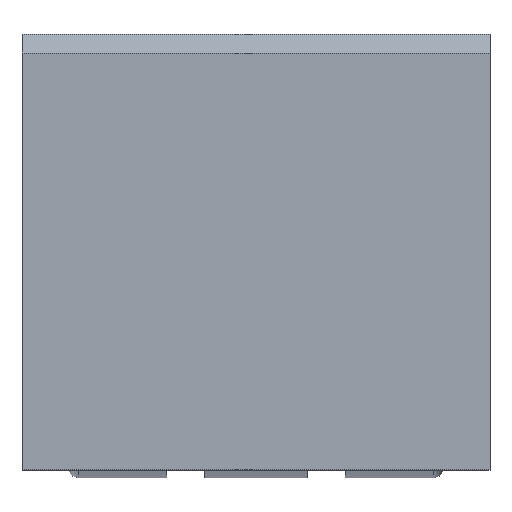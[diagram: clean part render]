
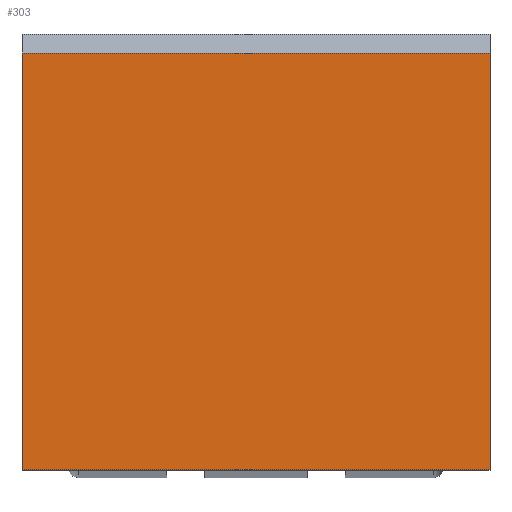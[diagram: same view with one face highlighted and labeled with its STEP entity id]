
A CAD part, top view. The second image highlights one B-rep face of the part: STEP entity #303.
In plain terms, the highlighted planar face has unit normal (0, 0, 1).
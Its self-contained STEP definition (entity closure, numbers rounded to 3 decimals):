
#303 = ADVANCED_FACE ( 'NONE', ( #7132 ), #13561, .F. ) ;
#1053 = EDGE_CURVE ( 'NONE', #1647, #5340, #2140, .T. ) ;
#1131 = CARTESIAN_POINT ( 'NONE',  ( 50., 89., 45. ) ) ;
#1193 = ORIENTED_EDGE ( 'NONE', *, *, #10344, .T. ) ;
#1313 = DIRECTION ( 'NONE',  ( 0., 0., -1. ) ) ;
#1647 = VERTEX_POINT ( 'NONE', #14629 ) ;
#1762 = DIRECTION ( 'NONE',  ( 0., -1., 0. ) ) ;
#2132 = VECTOR ( 'NONE', #15013, 1000. ) ;
#2140 = LINE ( 'NONE', #3399, #12833 ) ;
#3399 = CARTESIAN_POINT ( 'NONE',  ( 50., 0., 45. ) ) ;
#4885 = ORIENTED_EDGE ( 'NONE', *, *, #5433, .T. ) ;
#5340 = VERTEX_POINT ( 'NONE', #8108 ) ;
#5433 = EDGE_CURVE ( 'NONE', #17380, #5340, #12501, .T. ) ;
#6242 = DIRECTION ( 'NONE',  ( -1., 0., 0. ) ) ;
#6957 = AXIS2_PLACEMENT_3D ( 'NONE', #8106, #1313, #11167 ) ;
#7132 = FACE_OUTER_BOUND ( 'NONE', #8849, .T. ) ;
#7371 = ORIENTED_EDGE ( 'NONE', *, *, #15152, .F. ) ;
#7718 = VECTOR ( 'NONE', #1762, 1000. ) ;
#8106 = CARTESIAN_POINT ( 'NONE',  ( 50., 0., 45. ) ) ;
#8108 = CARTESIAN_POINT ( 'NONE',  ( -50., 0., 45. ) ) ;
#8849 = EDGE_LOOP ( 'NONE', ( #7371, #1193, #4885, #15198 ) ) ;
#10237 = LINE ( 'NONE', #15455, #7718 ) ;
#10344 = EDGE_CURVE ( 'NONE', #17126, #17380, #10899, .T. ) ;
#10899 = LINE ( 'NONE', #16646, #2132 ) ;
#11167 = DIRECTION ( 'NONE',  ( 0., 1., 0. ) ) ;
#12501 = LINE ( 'NONE', #16446, #16344 ) ;
#12833 = VECTOR ( 'NONE', #6242, 1000. ) ;
#13561 = PLANE ( 'NONE',  #6957 ) ;
#13842 = DIRECTION ( 'NONE',  ( 0., -1., 0. ) ) ;
#14629 = CARTESIAN_POINT ( 'NONE',  ( 50., 0., 45. ) ) ;
#15013 = DIRECTION ( 'NONE',  ( -1., 0., 0. ) ) ;
#15152 = EDGE_CURVE ( 'NONE', #17126, #1647, #10237, .T. ) ;
#15198 = ORIENTED_EDGE ( 'NONE', *, *, #1053, .F. ) ;
#15455 = CARTESIAN_POINT ( 'NONE',  ( 50., 0., 45. ) ) ;
#16344 = VECTOR ( 'NONE', #13842, 1000. ) ;
#16446 = CARTESIAN_POINT ( 'NONE',  ( -50., 0., 45. ) ) ;
#16618 = CARTESIAN_POINT ( 'NONE',  ( -50., 89., 45. ) ) ;
#16646 = CARTESIAN_POINT ( 'NONE',  ( 50., 89., 45. ) ) ;
#17126 = VERTEX_POINT ( 'NONE', #1131 ) ;
#17380 = VERTEX_POINT ( 'NONE', #16618 ) ;
